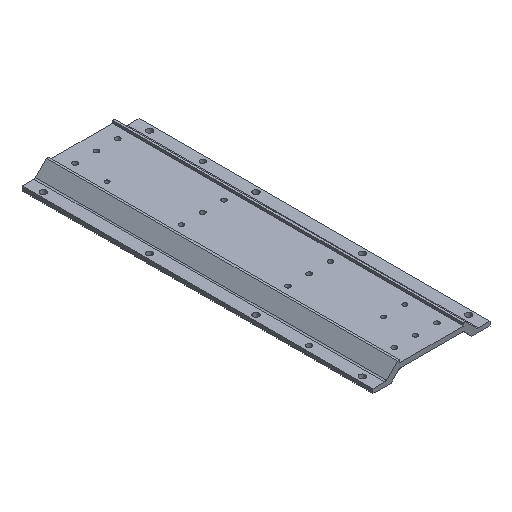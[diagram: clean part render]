
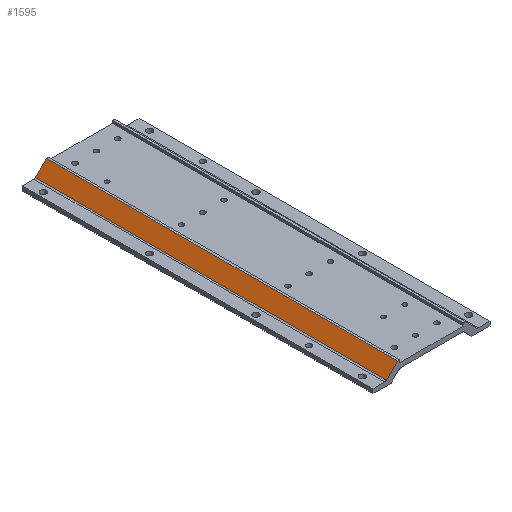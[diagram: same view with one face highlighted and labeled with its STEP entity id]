
A CAD part, isometric view. The second image highlights one B-rep face of the part: STEP entity #1595.
In plain terms, the highlighted planar face has unit normal (-0.707, 0, 0.707).
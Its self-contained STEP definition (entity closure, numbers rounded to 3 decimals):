
#44 = PLANE('',#45);
#45 = AXIS2_PLACEMENT_3D('',#46,#47,#48);
#46 = CARTESIAN_POINT('',(0.,0.,7.465));
#47 = DIRECTION('',(0.,1.,0.));
#48 = DIRECTION('',(0.,0.,1.));
#100 = PLANE('',#101);
#101 = AXIS2_PLACEMENT_3D('',#102,#103,#104);
#102 = CARTESIAN_POINT('',(0.,-330.,7.465));
#103 = DIRECTION('',(0.,1.,0.));
#104 = DIRECTION('',(0.,0.,1.));
#126 = CYLINDRICAL_SURFACE('',#127,2.);
#127 = AXIS2_PLACEMENT_3D('',#128,#129,#130);
#128 = CARTESIAN_POINT('',(-43.828,0.,6.));
#129 = DIRECTION('',(0.,-1.,0.));
#130 = DIRECTION('',(0.,0.,-1.));
#298 = VERTEX_POINT('',#299);
#299 = CARTESIAN_POINT('',(-42.414,0.,
    4.586));
#325 = EDGE_CURVE('',#298,#326,#328,.T.);
#326 = VERTEX_POINT('',#327);
#327 = CARTESIAN_POINT('',(-32.,0.,15.));
#328 = SURFACE_CURVE('',#329,(#333,#340),.PCURVE_S1.);
#329 = LINE('',#330,#331);
#330 = CARTESIAN_POINT('',(-43.,0.,4.));
#331 = VECTOR('',#332,1.);
#332 = DIRECTION('',(0.707,0.,0.707)
  );
#333 = PCURVE('',#44,#334);
#334 = DEFINITIONAL_REPRESENTATION('',(#335),#339);
#335 = LINE('',#336,#337);
#336 = CARTESIAN_POINT('',(-3.465,-43.));
#337 = VECTOR('',#338,1.);
#338 = DIRECTION('',(0.707,0.707));
#339 = ( GEOMETRIC_REPRESENTATION_CONTEXT(2) 
PARAMETRIC_REPRESENTATION_CONTEXT() REPRESENTATION_CONTEXT('2D SPACE',''
  ) );
#340 = PCURVE('',#341,#346);
#341 = PLANE('',#342);
#342 = AXIS2_PLACEMENT_3D('',#343,#344,#345);
#343 = CARTESIAN_POINT('',(-43.,0.,4.));
#344 = DIRECTION('',(-0.707,0.,0.707)
  );
#345 = DIRECTION('',(0.707,0.,0.707)
  );
#346 = DEFINITIONAL_REPRESENTATION('',(#347),#351);
#347 = LINE('',#348,#349);
#348 = CARTESIAN_POINT('',(0.,0.));
#349 = VECTOR('',#350,1.);
#350 = DIRECTION('',(1.,0.));
#351 = ( GEOMETRIC_REPRESENTATION_CONTEXT(2) 
PARAMETRIC_REPRESENTATION_CONTEXT() REPRESENTATION_CONTEXT('2D SPACE',''
  ) );
#369 = PLANE('',#370);
#370 = AXIS2_PLACEMENT_3D('',#371,#372,#373);
#371 = CARTESIAN_POINT('',(-32.,0.,15.));
#372 = DIRECTION('',(0.,0.,1.));
#373 = DIRECTION('',(1.,0.,0.));
#837 = EDGE_CURVE('',#298,#838,#840,.T.);
#838 = VERTEX_POINT('',#839);
#839 = CARTESIAN_POINT('',(-42.414,-330.,4.586));
#840 = SURFACE_CURVE('',#841,(#845,#852),.PCURVE_S1.);
#841 = LINE('',#842,#843);
#842 = CARTESIAN_POINT('',(-42.414,0.,
    4.586));
#843 = VECTOR('',#844,1.);
#844 = DIRECTION('',(0.,-1.,0.));
#845 = PCURVE('',#126,#846);
#846 = DEFINITIONAL_REPRESENTATION('',(#847),#851);
#847 = LINE('',#848,#849);
#848 = CARTESIAN_POINT('',(0.785,0.));
#849 = VECTOR('',#850,1.);
#850 = DIRECTION('',(0.,1.));
#851 = ( GEOMETRIC_REPRESENTATION_CONTEXT(2) 
PARAMETRIC_REPRESENTATION_CONTEXT() REPRESENTATION_CONTEXT('2D SPACE',''
  ) );
#852 = PCURVE('',#341,#853);
#853 = DEFINITIONAL_REPRESENTATION('',(#854),#858);
#854 = LINE('',#855,#856);
#855 = CARTESIAN_POINT('',(0.828,0.));
#856 = VECTOR('',#857,1.);
#857 = DIRECTION('',(0.,-1.));
#858 = ( GEOMETRIC_REPRESENTATION_CONTEXT(2) 
PARAMETRIC_REPRESENTATION_CONTEXT() REPRESENTATION_CONTEXT('2D SPACE',''
  ) );
#941 = EDGE_CURVE('',#838,#942,#944,.T.);
#942 = VERTEX_POINT('',#943);
#943 = CARTESIAN_POINT('',(-32.,-330.,15.));
#944 = SURFACE_CURVE('',#945,(#949,#956),.PCURVE_S1.);
#945 = LINE('',#946,#947);
#946 = CARTESIAN_POINT('',(-43.,-330.,4.));
#947 = VECTOR('',#948,1.);
#948 = DIRECTION('',(0.707,0.,0.707)
  );
#949 = PCURVE('',#100,#950);
#950 = DEFINITIONAL_REPRESENTATION('',(#951),#955);
#951 = LINE('',#952,#953);
#952 = CARTESIAN_POINT('',(-3.465,-43.));
#953 = VECTOR('',#954,1.);
#954 = DIRECTION('',(0.707,0.707));
#955 = ( GEOMETRIC_REPRESENTATION_CONTEXT(2) 
PARAMETRIC_REPRESENTATION_CONTEXT() REPRESENTATION_CONTEXT('2D SPACE',''
  ) );
#956 = PCURVE('',#341,#957);
#957 = DEFINITIONAL_REPRESENTATION('',(#958),#962);
#958 = LINE('',#959,#960);
#959 = CARTESIAN_POINT('',(0.,-330.));
#960 = VECTOR('',#961,1.);
#961 = DIRECTION('',(1.,0.));
#962 = ( GEOMETRIC_REPRESENTATION_CONTEXT(2) 
PARAMETRIC_REPRESENTATION_CONTEXT() REPRESENTATION_CONTEXT('2D SPACE',''
  ) );
#1595 = ADVANCED_FACE('',(#1596),#341,.T.);
#1596 = FACE_BOUND('',#1597,.T.);
#1597 = EDGE_LOOP('',(#1598,#1599,#1600,#1601));
#1598 = ORIENTED_EDGE('',*,*,#325,.F.);
#1599 = ORIENTED_EDGE('',*,*,#837,.T.);
#1600 = ORIENTED_EDGE('',*,*,#941,.T.);
#1601 = ORIENTED_EDGE('',*,*,#1602,.F.);
#1602 = EDGE_CURVE('',#326,#942,#1603,.T.);
#1603 = SURFACE_CURVE('',#1604,(#1608,#1615),.PCURVE_S1.);
#1604 = LINE('',#1605,#1606);
#1605 = CARTESIAN_POINT('',(-32.,0.,15.));
#1606 = VECTOR('',#1607,1.);
#1607 = DIRECTION('',(0.,-1.,0.));
#1608 = PCURVE('',#341,#1609);
#1609 = DEFINITIONAL_REPRESENTATION('',(#1610),#1614);
#1610 = LINE('',#1611,#1612);
#1611 = CARTESIAN_POINT('',(15.556,0.));
#1612 = VECTOR('',#1613,1.);
#1613 = DIRECTION('',(0.,-1.));
#1614 = ( GEOMETRIC_REPRESENTATION_CONTEXT(2) 
PARAMETRIC_REPRESENTATION_CONTEXT() REPRESENTATION_CONTEXT('2D SPACE',''
  ) );
#1615 = PCURVE('',#369,#1616);
#1616 = DEFINITIONAL_REPRESENTATION('',(#1617),#1621);
#1617 = LINE('',#1618,#1619);
#1618 = CARTESIAN_POINT('',(0.,0.));
#1619 = VECTOR('',#1620,1.);
#1620 = DIRECTION('',(0.,-1.));
#1621 = ( GEOMETRIC_REPRESENTATION_CONTEXT(2) 
PARAMETRIC_REPRESENTATION_CONTEXT() REPRESENTATION_CONTEXT('2D SPACE',''
  ) );
